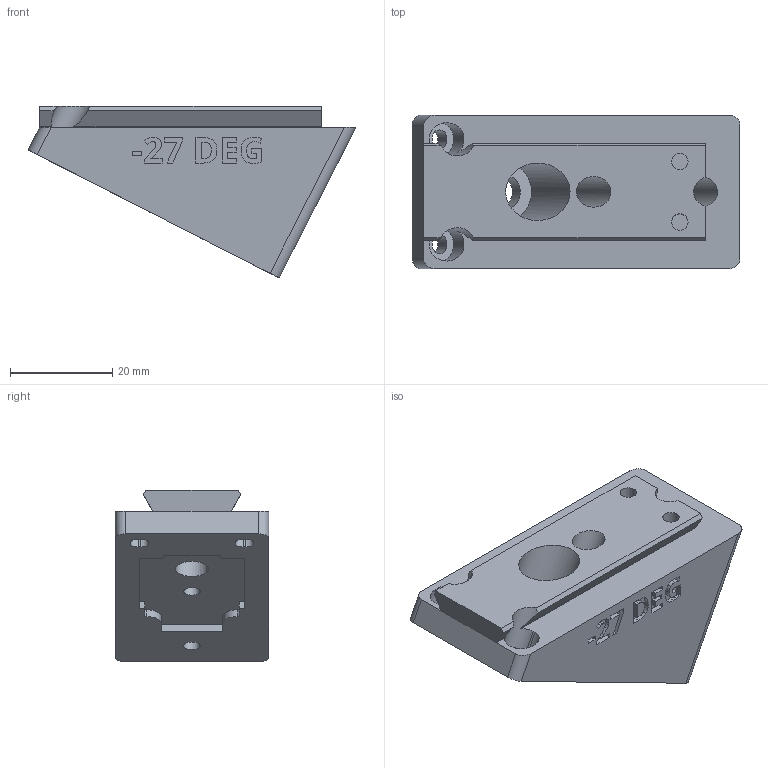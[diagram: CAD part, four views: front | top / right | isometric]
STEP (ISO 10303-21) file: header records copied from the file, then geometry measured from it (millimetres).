
FILE_DESCRIPTION(/* description */ ('STEP AP242 Edition 2','CAx-IF Rec.Pracs.---Representation and Presentation of Product Manufacturing Information (PMI)---4.0---2014-10-13','CAx-IF Rec.Pracs.---3D Tessellated Geometry---0.4---2014-09-14','2;1','CAx-IF Rec.Pracs.---User Defined Attributes---1.5---2016-08-15'),/* implementation_level */ '2;1');
FILE_NAME(/* name */ 'Camera Wedges - CAMERA MOUNTING WEDGE, NEG, -27 DEG',/* time_stamp */ '2026-07-08T20:36:03Z',/* author */ (''),/* organization */ (''),/* preprocessor_version */ 'ST-DEVELOPER v20',/* originating_system */ 'ONSHAPE BY PTC INC, 1.217',/* authorisation */ ' ');
FILE_SCHEMA (('AP242_MANAGED_MODEL_BASED_3D_ENGINEERING_MIM_LF { 1 0 10303 442 3 1 4 }'));
Length unit declared in the file: metre
Products named in the file (1): CAMERA MOUNTING WEDGE, NEG, -27 DEG
Bounding box: 63.99 x 30 x 33.5 mm (x, y, z)
Volume: 30931.6 mm3; surface area: 9479.8 mm2
Topology: 1 solids, 1 shells, 248 faces, 679 edges, 452 vertices
Faces by surface type: plane 152, cylinder 52, bspline 44
Full cylindrical faces by diameter (mm): 3.2 x4, 6 x2, 6.4 x1, 11.2 x1
Entity records: 7975 total; most frequent: CARTESIAN_POINT 1854, ORIENTED_EDGE 1340, DIRECTION 1111, EDGE_CURVE 670, LINE 463, VECTOR 463, VERTEX_POINT 451, AXIS2_PLACEMENT_3D 324
